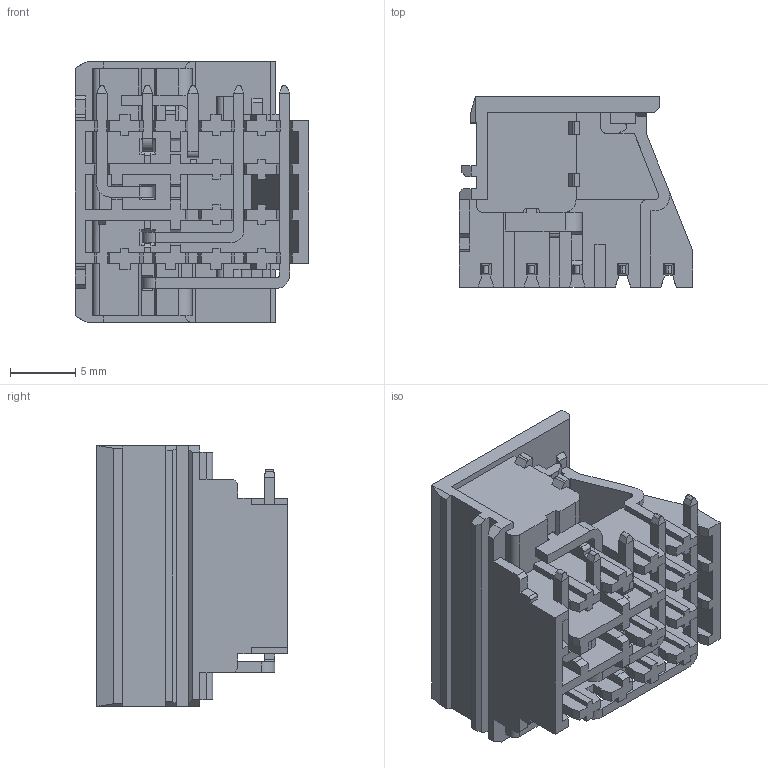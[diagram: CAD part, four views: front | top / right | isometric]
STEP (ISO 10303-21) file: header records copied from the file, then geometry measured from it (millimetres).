
FILE_DESCRIPTION((''),'2;1');
FILE_NAME('EU05P-R','2021-05-17T',('renkang.li'),(''),'CREO PARAMETRIC BY PTC INC, 2016260','CREO PARAMETRIC BY PTC INC, 2016260','');
FILE_SCHEMA(('CONFIG_CONTROL_DESIGN'));
Length unit declared in the file: millimetre
Products named in the file (1): EU05P-R
Bounding box: 17.9 x 14.6 x 20 mm (x, y, z)
Volume: 1667.1 mm3; surface area: 4245 mm2
Topology: 1 solids, 11 shells, 999 faces, 2898 edges, 1898 vertices
Faces by surface type: plane 913, cylinder 60, cone 16, torus 10
Entity records: 32801 total; most frequent: CARTESIAN_POINT 6351, ORIENTED_EDGE 5796, DIRECTION 5049, EDGE_CURVE 2898, VECTOR 2597, LINE 2597, VERTEX_POINT 1898, AXIS2_PLACEMENT_3D 1226
